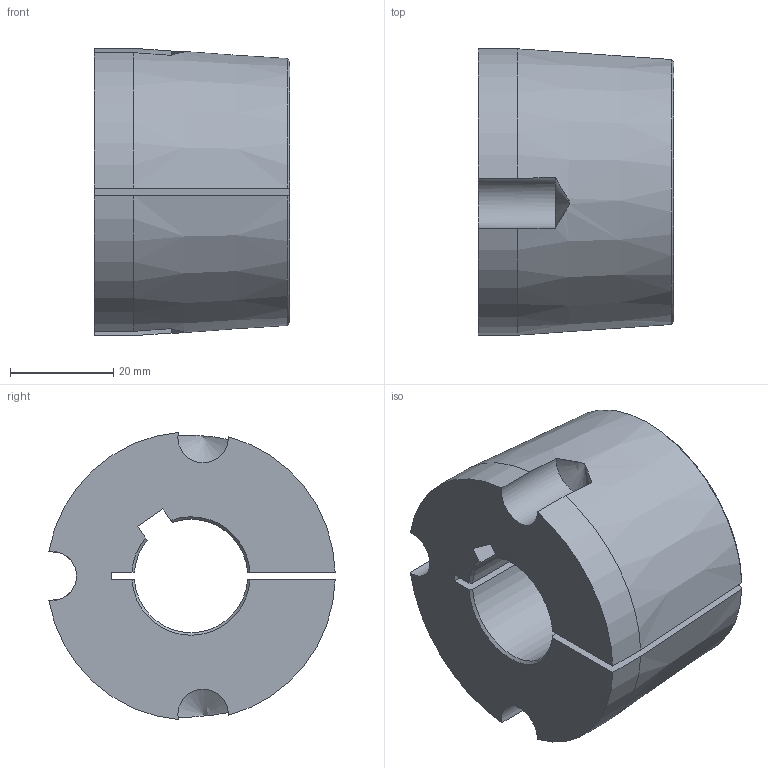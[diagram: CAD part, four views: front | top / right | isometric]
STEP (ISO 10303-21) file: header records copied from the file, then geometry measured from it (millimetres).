
FILE_DESCRIPTION(/* description */ (''),/* implementation_level */ '2;1');
FILE_NAME(/* name */ 'C:\Users\stagistaCAD\Desktop\Nuova cartella\29161522.stp',/* time_stamp */ '2018-06-29T09:13:15+02:00',/* author */ ('stagistacad'),/* organization */ (''),/* preprocessor_version */ 'ST-DEVELOPER v15.6',/* originating_system */ 'Autodesk Inventor 2015',/* authorisation */ '');
FILE_SCHEMA (('AUTOMOTIVE_DESIGN { 1 0 10303 214 3 1 1 }'));
Length unit declared in the file: millimetre
Products named in the file (1): 29161522
Bounding box: 38 x 55.59 x 55.79 mm (x, y, z)
Volume: 68948.9 mm3; surface area: 14744.7 mm2
Topology: 1 solids, 1 shells, 34 faces, 100 edges, 66 vertices
Faces by surface type: cone 12, cylinder 12, plane 10
Entity records: 1184 total; most frequent: CARTESIAN_POINT 303, ORIENTED_EDGE 192, DIRECTION 176, EDGE_CURVE 96, AXIS2_PLACEMENT_3D 69, VERTEX_POINT 64, LINE 38, VECTOR 38
